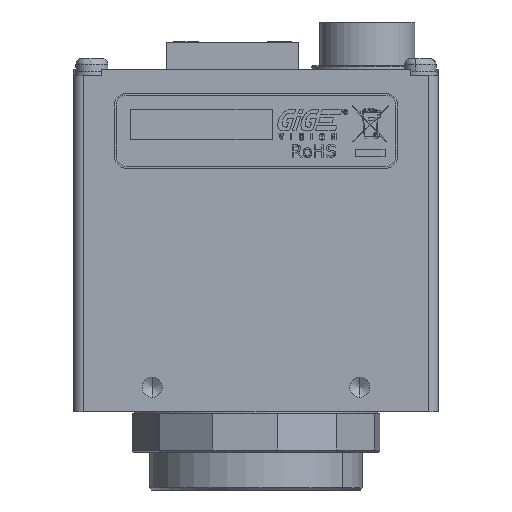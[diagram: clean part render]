
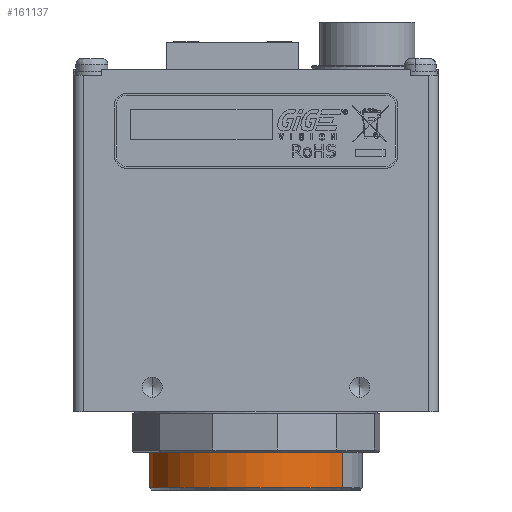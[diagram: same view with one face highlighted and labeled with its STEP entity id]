
A CAD part, front view. The second image highlights one B-rep face of the part: STEP entity #161137.
In plain terms, the highlighted cylindrical face has radius 13.335 mm (diameter 26.67 mm), a partial arc.
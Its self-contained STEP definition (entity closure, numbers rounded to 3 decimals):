
#1548 = CIRCLE ( 'NONE', #64065, 13.335 ) ;
#4848 = VERTEX_POINT ( 'NONE', #70608 ) ;
#10797 = AXIS2_PLACEMENT_3D ( 'NONE', #88325, #155587, #93108 ) ;
#10947 = DIRECTION ( 'NONE',  ( 0., 0., 1. ) ) ;
#11226 = ORIENTED_EDGE ( 'NONE', *, *, #32510, .T. ) ;
#14101 = CARTESIAN_POINT ( 'NONE',  ( 13.335, 0., 7.214 ) ) ;
#18360 = VERTEX_POINT ( 'NONE', #132689 ) ;
#19437 = ORIENTED_EDGE ( 'NONE', *, *, #139994, .F. ) ;
#32510 = EDGE_CURVE ( 'NONE', #4848, #18360, #130934, .T. ) ;
#35366 = DIRECTION ( 'NONE',  ( 0., 0., -1. ) ) ;
#36733 = CARTESIAN_POINT ( 'NONE',  ( -13.335, 0., 7.214 ) ) ;
#50347 = LINE ( 'NONE', #36733, #122102 ) ;
#50371 = DIRECTION ( 'NONE',  ( 0., 0., 1. ) ) ;
#52091 = EDGE_CURVE ( 'NONE', #18360, #136857, #156101, .T. ) ;
#62654 = AXIS2_PLACEMENT_3D ( 'NONE', #126855, #126655, #126631 ) ;
#64065 = AXIS2_PLACEMENT_3D ( 'NONE', #116300, #35366, #129763 ) ;
#70409 = VERTEX_POINT ( 'NONE', #161582 ) ;
#70608 = CARTESIAN_POINT ( 'NONE',  ( -13.335, 0., 7.214 ) ) ;
#79641 = CYLINDRICAL_SURFACE ( 'NONE', #10797, 13.335 ) ;
#85383 = CARTESIAN_POINT ( 'NONE',  ( 13.335, 0., 13.386 ) ) ;
#88325 = CARTESIAN_POINT ( 'NONE',  ( 0., 0., 7.214 ) ) ;
#93108 = DIRECTION ( 'NONE',  ( 1., 0., 0. ) ) ;
#99601 = ORIENTED_EDGE ( 'NONE', *, *, #52091, .T. ) ;
#114062 = EDGE_CURVE ( 'NONE', #136857, #70409, #1548, .T. ) ;
#116300 = CARTESIAN_POINT ( 'NONE',  ( 0., 0., 13.386 ) ) ;
#116466 = VECTOR ( 'NONE', #10947, 1000. ) ;
#122102 = VECTOR ( 'NONE', #50371, 1000. ) ;
#126631 = DIRECTION ( 'NONE',  ( 1., 0., 0. ) ) ;
#126655 = DIRECTION ( 'NONE',  ( 0., 0., 1. ) ) ;
#126855 = CARTESIAN_POINT ( 'NONE',  ( 0., 0., 7.214 ) ) ;
#129763 = DIRECTION ( 'NONE',  ( 1., 0., 0. ) ) ;
#130934 = CIRCLE ( 'NONE', #62654, 13.335 ) ;
#132296 = FACE_OUTER_BOUND ( 'NONE', #133853, .T. ) ;
#132689 = CARTESIAN_POINT ( 'NONE',  ( 13.335, 0., 7.214 ) ) ;
#133853 = EDGE_LOOP ( 'NONE', ( #19437, #11226, #99601, #152955 ) ) ;
#136857 = VERTEX_POINT ( 'NONE', #85383 ) ;
#139994 = EDGE_CURVE ( 'NONE', #4848, #70409, #50347, .T. ) ;
#152955 = ORIENTED_EDGE ( 'NONE', *, *, #114062, .T. ) ;
#155587 = DIRECTION ( 'NONE',  ( 0., 0., 1. ) ) ;
#156101 = LINE ( 'NONE', #14101, #116466 ) ;
#161137 = ADVANCED_FACE ( 'NONE', ( #132296 ), #79641, .T. ) ;
#161582 = CARTESIAN_POINT ( 'NONE',  ( -13.335, 0., 13.386 ) ) ;
